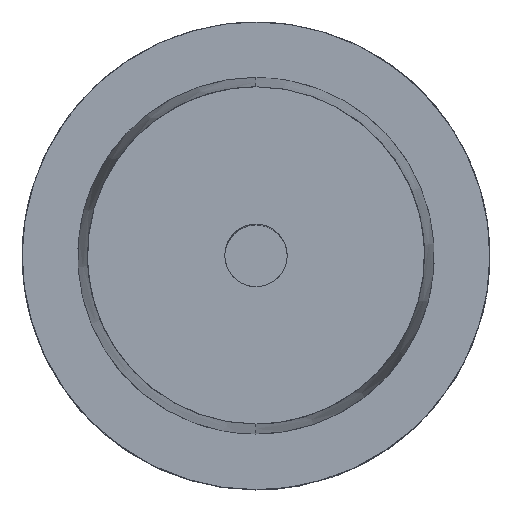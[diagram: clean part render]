
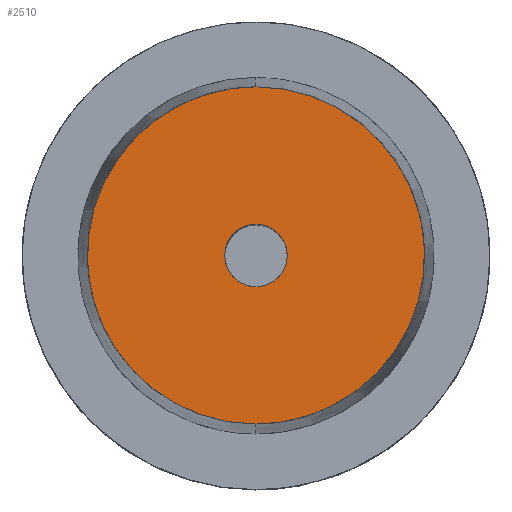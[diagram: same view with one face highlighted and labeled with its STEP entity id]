
A CAD part, top view. The second image highlights one B-rep face of the part: STEP entity #2510.
In plain terms, the highlighted planar face has unit normal (0, 0, -1).
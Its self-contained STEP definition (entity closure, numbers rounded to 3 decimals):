
#2510 = ADVANCED_FACE('',(#2511,#2558),#2527,.T.);
#2511 = FACE_BOUND('',#2512,.T.);
#2512 = EDGE_LOOP('',(#2513,#2540));
#2513 = ORIENTED_EDGE('',*,*,#2514,.T.);
#2514 = EDGE_CURVE('',#2515,#2517,#2519,.T.);
#2515 = VERTEX_POINT('',#2516);
#2516 = CARTESIAN_POINT('',(0.,22.717,32.));
#2517 = VERTEX_POINT('',#2518);
#2518 = CARTESIAN_POINT('',(0.,-22.717,32.));
#2519 = SURFACE_CURVE('',#2520,(#2526),.PCURVE_S1.);
#2520 = ( BOUNDED_CURVE() B_SPLINE_CURVE(2,(#2521,#2522,#2523,#2524,
#2525),.UNSPECIFIED.,.F.,.F.) B_SPLINE_CURVE_WITH_KNOTS((3,2,3),(0.,0.5,
1.),.PIECEWISE_BEZIER_KNOTS.) CURVE() GEOMETRIC_REPRESENTATION_ITEM() 
RATIONAL_B_SPLINE_CURVE((1.,0.707,1.,0.707,1.)) 
REPRESENTATION_ITEM('') );
#2521 = CARTESIAN_POINT('',(0.,22.717,32.));
#2522 = CARTESIAN_POINT('',(22.717,22.717,32.));
#2523 = CARTESIAN_POINT('',(22.717,0.,32.));
#2524 = CARTESIAN_POINT('',(22.717,-22.717,32.));
#2525 = CARTESIAN_POINT('',(0.,-22.717,32.));
#2526 = PCURVE('',#2527,#2532);
#2527 = PLANE('',#2528);
#2528 = AXIS2_PLACEMENT_3D('',#2529,#2530,#2531);
#2529 = CARTESIAN_POINT('',(0.,0.,32.));
#2530 = DIRECTION('',(0.,0.,-1.));
#2531 = DIRECTION('',(0.,1.,0.));
#2532 = DEFINITIONAL_REPRESENTATION('',(#2533),#2539);
#2533 = ( BOUNDED_CURVE() B_SPLINE_CURVE(2,(#2534,#2535,#2536,#2537,
#2538),.UNSPECIFIED.,.F.,.F.) B_SPLINE_CURVE_WITH_KNOTS((3,2,3),(0.,0.5,
1.),.PIECEWISE_BEZIER_KNOTS.) CURVE() GEOMETRIC_REPRESENTATION_ITEM() 
RATIONAL_B_SPLINE_CURVE((1.,0.707,1.,0.707,1.)) 
REPRESENTATION_ITEM('') );
#2534 = CARTESIAN_POINT('',(22.717,0.));
#2535 = CARTESIAN_POINT('',(22.717,22.717));
#2536 = CARTESIAN_POINT('',(0.,22.717));
#2537 = CARTESIAN_POINT('',(-22.717,22.717));
#2538 = CARTESIAN_POINT('',(-22.717,0.));
#2539 = ( GEOMETRIC_REPRESENTATION_CONTEXT(2) 
PARAMETRIC_REPRESENTATION_CONTEXT() REPRESENTATION_CONTEXT('2D SPACE',''
  ) );
#2540 = ORIENTED_EDGE('',*,*,#2541,.T.);
#2541 = EDGE_CURVE('',#2517,#2515,#2542,.T.);
#2542 = SURFACE_CURVE('',#2543,(#2549),.PCURVE_S1.);
#2543 = ( BOUNDED_CURVE() B_SPLINE_CURVE(2,(#2544,#2545,#2546,#2547,
#2548),.UNSPECIFIED.,.F.,.F.) B_SPLINE_CURVE_WITH_KNOTS((3,2,3),(0.,0.5,
1.),.PIECEWISE_BEZIER_KNOTS.) CURVE() GEOMETRIC_REPRESENTATION_ITEM() 
RATIONAL_B_SPLINE_CURVE((1.,0.707,1.,0.707,1.)) 
REPRESENTATION_ITEM('') );
#2544 = CARTESIAN_POINT('',(0.,-22.717,32.));
#2545 = CARTESIAN_POINT('',(-22.717,-22.717,32.));
#2546 = CARTESIAN_POINT('',(-22.717,0.,32.));
#2547 = CARTESIAN_POINT('',(-22.717,22.717,32.));
#2548 = CARTESIAN_POINT('',(0.,22.717,32.));
#2549 = PCURVE('',#2527,#2550);
#2550 = DEFINITIONAL_REPRESENTATION('',(#2551),#2557);
#2551 = ( BOUNDED_CURVE() B_SPLINE_CURVE(2,(#2552,#2553,#2554,#2555,
#2556),.UNSPECIFIED.,.F.,.F.) B_SPLINE_CURVE_WITH_KNOTS((3,2,3),(0.,0.5,
1.),.PIECEWISE_BEZIER_KNOTS.) CURVE() GEOMETRIC_REPRESENTATION_ITEM() 
RATIONAL_B_SPLINE_CURVE((1.,0.707,1.,0.707,1.)) 
REPRESENTATION_ITEM('') );
#2552 = CARTESIAN_POINT('',(-22.717,0.));
#2553 = CARTESIAN_POINT('',(-22.717,-22.717));
#2554 = CARTESIAN_POINT('',(0.,-22.717));
#2555 = CARTESIAN_POINT('',(22.717,-22.717));
#2556 = CARTESIAN_POINT('',(22.717,0.));
#2557 = ( GEOMETRIC_REPRESENTATION_CONTEXT(2) 
PARAMETRIC_REPRESENTATION_CONTEXT() REPRESENTATION_CONTEXT('2D SPACE',''
  ) );
#2558 = FACE_BOUND('',#2559,.T.);
#2559 = EDGE_LOOP('',(#2560,#2582));
#2560 = ORIENTED_EDGE('',*,*,#2561,.T.);
#2561 = EDGE_CURVE('',#2562,#2564,#2566,.T.);
#2562 = VERTEX_POINT('',#2563);
#2563 = CARTESIAN_POINT('',(0.,4.2,32.));
#2564 = VERTEX_POINT('',#2565);
#2565 = CARTESIAN_POINT('',(0.,-4.2,32.));
#2566 = SURFACE_CURVE('',#2567,(#2573),.PCURVE_S1.);
#2567 = ( BOUNDED_CURVE() B_SPLINE_CURVE(2,(#2568,#2569,#2570,#2571,
#2572),.UNSPECIFIED.,.F.,.F.) B_SPLINE_CURVE_WITH_KNOTS((3,2,3),(0.,0.5,
1.),.PIECEWISE_BEZIER_KNOTS.) CURVE() GEOMETRIC_REPRESENTATION_ITEM() 
RATIONAL_B_SPLINE_CURVE((1.,0.707,1.,0.707,1.)) 
REPRESENTATION_ITEM('') );
#2568 = CARTESIAN_POINT('',(0.,4.2,32.));
#2569 = CARTESIAN_POINT('',(-4.2,4.2,32.));
#2570 = CARTESIAN_POINT('',(-4.2,0.,32.));
#2571 = CARTESIAN_POINT('',(-4.2,-4.2,32.));
#2572 = CARTESIAN_POINT('',(0.,-4.2,32.));
#2573 = PCURVE('',#2527,#2574);
#2574 = DEFINITIONAL_REPRESENTATION('',(#2575),#2581);
#2575 = ( BOUNDED_CURVE() B_SPLINE_CURVE(2,(#2576,#2577,#2578,#2579,
#2580),.UNSPECIFIED.,.F.,.F.) B_SPLINE_CURVE_WITH_KNOTS((3,2,3),(0.,0.5,
1.),.PIECEWISE_BEZIER_KNOTS.) CURVE() GEOMETRIC_REPRESENTATION_ITEM() 
RATIONAL_B_SPLINE_CURVE((1.,0.707,1.,0.707,1.)) 
REPRESENTATION_ITEM('') );
#2576 = CARTESIAN_POINT('',(4.2,0.));
#2577 = CARTESIAN_POINT('',(4.2,-4.2));
#2578 = CARTESIAN_POINT('',(0.,-4.2));
#2579 = CARTESIAN_POINT('',(-4.2,-4.2));
#2580 = CARTESIAN_POINT('',(-4.2,0.));
#2581 = ( GEOMETRIC_REPRESENTATION_CONTEXT(2) 
PARAMETRIC_REPRESENTATION_CONTEXT() REPRESENTATION_CONTEXT('2D SPACE',''
  ) );
#2582 = ORIENTED_EDGE('',*,*,#2583,.T.);
#2583 = EDGE_CURVE('',#2564,#2562,#2584,.T.);
#2584 = SURFACE_CURVE('',#2585,(#2591),.PCURVE_S1.);
#2585 = ( BOUNDED_CURVE() B_SPLINE_CURVE(2,(#2586,#2587,#2588,#2589,
#2590),.UNSPECIFIED.,.F.,.F.) B_SPLINE_CURVE_WITH_KNOTS((3,2,3),(0.,0.5,
1.),.PIECEWISE_BEZIER_KNOTS.) CURVE() GEOMETRIC_REPRESENTATION_ITEM() 
RATIONAL_B_SPLINE_CURVE((1.,0.707,1.,0.707,1.)) 
REPRESENTATION_ITEM('') );
#2586 = CARTESIAN_POINT('',(0.,-4.2,32.));
#2587 = CARTESIAN_POINT('',(4.2,-4.2,32.));
#2588 = CARTESIAN_POINT('',(4.2,0.,32.));
#2589 = CARTESIAN_POINT('',(4.2,4.2,32.));
#2590 = CARTESIAN_POINT('',(0.,4.2,32.));
#2591 = PCURVE('',#2527,#2592);
#2592 = DEFINITIONAL_REPRESENTATION('',(#2593),#2599);
#2593 = ( BOUNDED_CURVE() B_SPLINE_CURVE(2,(#2594,#2595,#2596,#2597,
#2598),.UNSPECIFIED.,.F.,.F.) B_SPLINE_CURVE_WITH_KNOTS((3,2,3),(0.,0.5,
1.),.PIECEWISE_BEZIER_KNOTS.) CURVE() GEOMETRIC_REPRESENTATION_ITEM() 
RATIONAL_B_SPLINE_CURVE((1.,0.707,1.,0.707,1.)) 
REPRESENTATION_ITEM('') );
#2594 = CARTESIAN_POINT('',(-4.2,0.));
#2595 = CARTESIAN_POINT('',(-4.2,4.2));
#2596 = CARTESIAN_POINT('',(0.,4.2));
#2597 = CARTESIAN_POINT('',(4.2,4.2));
#2598 = CARTESIAN_POINT('',(4.2,0.));
#2599 = ( GEOMETRIC_REPRESENTATION_CONTEXT(2) 
PARAMETRIC_REPRESENTATION_CONTEXT() REPRESENTATION_CONTEXT('2D SPACE',''
  ) );
